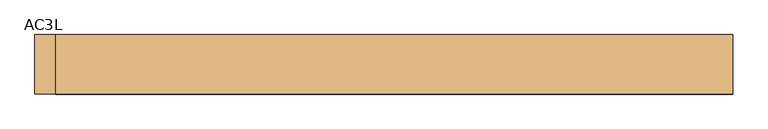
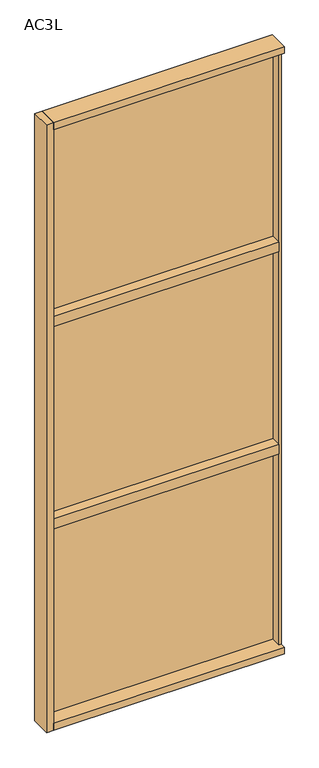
"""IFC4 building model written with IfcOpenShell, lengths in millimetres: door geometry, Mobiliário_Mobiliário de Escritório_Painel Lambri - AC3L (Inicial e Final)_Marelli : AC3L."""

from ifc_helpers import new_model, si_unit, frame, origin, origin_with_axes, place, context, project, spatial, polyline, outline, extrude, source, transform, mapped, element, save


def ac3l_4260f32d(model_context):
    return source(origin(), model_context, "Body", "SweptSolid", [
        extrude(outline(polyline([(500.0, 42.5), (500.0, -42.5), (-470.0, -42.5), (-470.0, 42.5), (500.0, 42.5)])), origin_with_axes(), (0.0, 0.0, 1.0), 30.0),
        extrude(outline(polyline([(490.0, 39.5), (490.0, 21.5), (-470.0, 21.5), (-470.0, 39.5), (490.0, 39.5)])), frame((0.0, 0.0, 30.0), z_axis=(0.0, 0.0, 1.0), x_axis=(1.0, 0.0, 0.0)), (0.0, 0.0, 1.0), 865.0),
        extrude(outline(polyline([(490.0, 21.5), (490.0, -21.5), (-470.0, -21.5), (-470.0, 21.5), (490.0, 21.5)])), frame((0.0, 0.0, 878.5), z_axis=(0.0, 0.0, 1.0), x_axis=(1.0, 0.0, 0.0)), (0.0, 0.0, 1.0), 43.0),
        extrude(outline(polyline([(500.0, 42.5), (500.0, -42.5), (-470.0, -42.5), (-470.0, 42.5), (500.0, 42.5)])), frame((0.0, 0.0, 2670.0), z_axis=(0.0, 0.0, 1.0), x_axis=(1.0, 0.0, 0.0)), (0.0, 0.0, 1.0), 30.0),
        extrude(outline(polyline([(490.0, 21.5), (490.0, -21.5), (-470.0, -21.5), (-470.0, 21.5), (490.0, 21.5)])), frame((0.0, 0.0, 1778.5), z_axis=(0.0, 0.0, 1.0), x_axis=(1.0, 0.0, 0.0)), (0.0, 0.0, 1.0), 43.0),
        extrude(outline(polyline([(-500.0, -42.5), (-500.0, 42.5), (-470.0, 42.5), (-470.0, -42.5), (-500.0, -42.5)])), origin_with_axes(), (0.0, 0.0, 1.0), 2700.0),
        extrude(outline(polyline([(500.0, -21.5), (490.0, -21.5), (490.0, 21.5), (500.0, 21.5), (500.0, -21.5)])), frame((0.0, 0.0, 30.0), z_axis=(0.0, 0.0, 1.0), x_axis=(1.0, 0.0, 0.0)), (0.0, 0.0, 1.0), 2640.0),
        extrude(outline(polyline([(490.0, 39.5), (490.0, 21.5), (-470.0, 21.5), (-470.0, 39.5), (490.0, 39.5)])), frame((0.0, 0.0, 905.0), z_axis=(0.0, 0.0, 1.0), x_axis=(1.0, 0.0, 0.0)), (0.0, 0.0, 1.0), 890.0),
        extrude(outline(polyline([(500.0, 39.5), (500.0, 21.5), (-470.0, 21.5), (-470.0, 39.5), (500.0, 39.5)])), frame((0.0, 0.0, 1805.0), z_axis=(0.0, 0.0, 1.0), x_axis=(1.0, 0.0, 0.0)), (0.0, 0.0, 1.0), 865.0),
    ])


if __name__ == "__main__":
    model = new_model("IFC4")
    model_context = context("Model", 3, world=origin())
    ifc_project = project(units=[si_unit("LENGTHUNIT", "METRE", prefix="MILLI")], contexts=[model_context])
    site = spatial("IfcSite", under=ifc_project)
    building = spatial("IfcBuilding", under=site)
    placement = place(None, origin())
    ac3l_shape = ac3l_4260f32d(model_context)
    element("IfcDoor", 1, ObjectType="Mobiliário_Mobiliário de Escritório_Painel Lambri - AC3L (Inicial e Final)_Marelli : AC3L", at=placement, inside=building, context=model_context, shape_type="MappedRepresentation", body=[
        mapped(ac3l_shape, transform((0.0, 0.0, 0.0), x_axis=(1.0, 0.0, 0.0), y_axis=(0.0, 1.0, 0.0), z_axis=(0.0, 0.0, 1.0))),
    ])
    save(model, "model.ifc")
